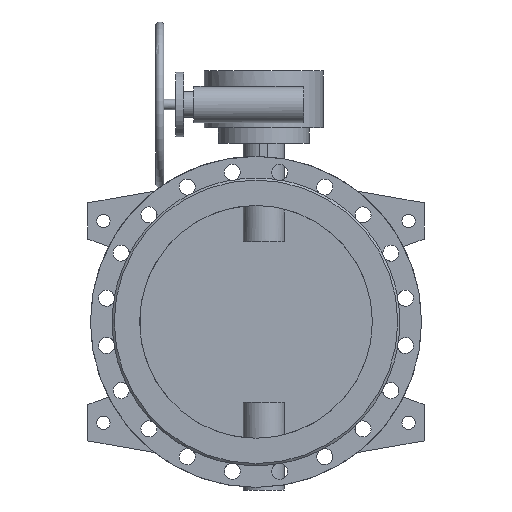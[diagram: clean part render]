
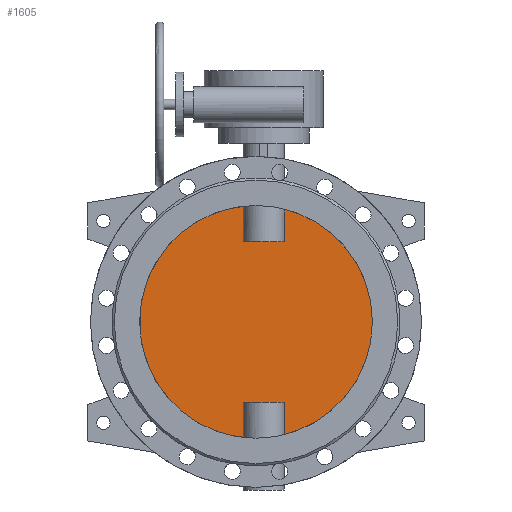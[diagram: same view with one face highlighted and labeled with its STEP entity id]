
A CAD part, front view. The second image highlights one B-rep face of the part: STEP entity #1605.
In plain terms, the highlighted planar face has unit normal (0, -1, 0).
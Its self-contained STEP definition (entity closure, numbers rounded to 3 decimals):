
#1605=ADVANCED_FACE('',(#3263),#3265,.F.);
#3263=FACE_BOUND('',#3264,.T.);
#3264=EDGE_LOOP('',(#4438,#4439,#4440,#4441,#4442,#4443,#4444,#4445));
#3265=PLANE('',#3266);
#3266=AXIS2_PLACEMENT_3D('',#3267,#3268,#3269);
#3267=CARTESIAN_POINT('',(0.,-5.,0.));
#3268=DIRECTION('',(0.,1.,0.));
#3269=DIRECTION('',(1.,0.,0.));
#4438=ORIENTED_EDGE('',*,*,#4977,.T.);
#4439=ORIENTED_EDGE('',*,*,#5008,.T.);
#4440=ORIENTED_EDGE('',*,*,#5009,.T.);
#4441=ORIENTED_EDGE('',*,*,#5010,.T.);
#4442=ORIENTED_EDGE('',*,*,#4979,.T.);
#4443=ORIENTED_EDGE('',*,*,#5011,.T.);
#4444=ORIENTED_EDGE('',*,*,#5012,.T.);
#4445=ORIENTED_EDGE('',*,*,#5013,.T.);
#4977=EDGE_CURVE('',#5909,#5910,#5911,.F.);
#4979=EDGE_CURVE('',#5914,#5912,#5915,.F.);
#5008=EDGE_CURVE('',#5910,#5949,#5950,.T.);
#5009=EDGE_CURVE('',#5949,#5951,#5952,.F.);
#5010=EDGE_CURVE('',#5951,#5914,#5953,.F.);
#5011=EDGE_CURVE('',#5912,#5954,#5955,.F.);
#5012=EDGE_CURVE('',#5954,#5956,#5957,.F.);
#5013=EDGE_CURVE('',#5956,#5909,#5958,.T.);
#5909=VERTEX_POINT('',#13553);
#5910=VERTEX_POINT('',#13554);
#5911=CIRCLE('',#13555,225.);
#5912=VERTEX_POINT('',#13559);
#5914=VERTEX_POINT('',#13645);
#5915=CIRCLE('',#13646,225.);
#5949=VERTEX_POINT('',#13870);
#5950=LINE('',#13871,#13872);
#5951=VERTEX_POINT('',#13874);
#5952=LINE('',#13875,#13876);
#5953=LINE('',#13878,#13879);
#5954=VERTEX_POINT('',#13881);
#5955=LINE('',#13882,#13883);
#5956=VERTEX_POINT('',#13885);
#5957=LINE('',#13886,#13887);
#5958=LINE('',#13889,#13890);
#13553=CARTESIAN_POINT('',(54.686,-5.,-218.253));
#13554=CARTESIAN_POINT('',(54.686,-5.,218.253));
#13555=AXIS2_PLACEMENT_3D('',#13556,#13557,#13558);
#13556=CARTESIAN_POINT('',(0.,-5.,0.));
#13557=DIRECTION('',(0.,1.,0.));
#13558=DIRECTION('',(0.243,0.,0.97));
#13559=CARTESIAN_POINT('',(-24.686,-5.,-223.642));
#13645=CARTESIAN_POINT('',(-24.686,-5.,223.642));
#13646=AXIS2_PLACEMENT_3D('',#13647,#13648,#13649);
#13647=CARTESIAN_POINT('',(0.,-5.,0.));
#13648=DIRECTION('',(0.,1.,0.));
#13649=DIRECTION('',(-0.11,0.,-0.994));
#13870=CARTESIAN_POINT('',(54.686,-5.,155.));
#13871=CARTESIAN_POINT('',(54.686,-5.,218.253));
#13872=VECTOR('',#13873,1.);
#13873=DIRECTION('',(0.,0.,-1.));
#13874=CARTESIAN_POINT('',(-24.686,-5.,155.));
#13875=CARTESIAN_POINT('',(-24.686,-5.,155.));
#13876=VECTOR('',#13877,1.);
#13877=DIRECTION('',(1.,0.,0.));
#13878=CARTESIAN_POINT('',(-24.686,-5.,223.642));
#13879=VECTOR('',#13880,1.);
#13880=DIRECTION('',(0.,0.,-1.));
#13881=CARTESIAN_POINT('',(-24.686,-5.,-155.));
#13882=CARTESIAN_POINT('',(-24.686,-5.,-155.));
#13883=VECTOR('',#13884,1.);
#13884=DIRECTION('',(0.,0.,-1.));
#13885=CARTESIAN_POINT('',(54.686,-5.,-155.));
#13886=CARTESIAN_POINT('',(54.686,-5.,-155.));
#13887=VECTOR('',#13888,1.);
#13888=DIRECTION('',(-1.,0.,0.));
#13889=CARTESIAN_POINT('',(54.686,-5.,-155.));
#13890=VECTOR('',#13891,1.);
#13891=DIRECTION('',(0.,0.,-1.));
